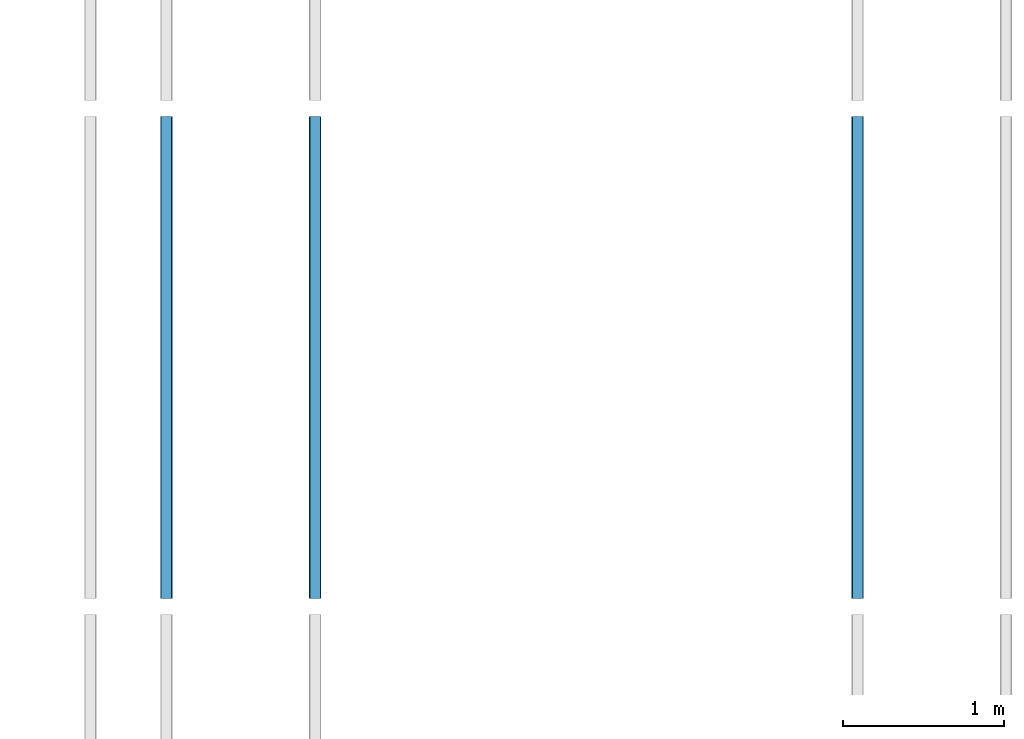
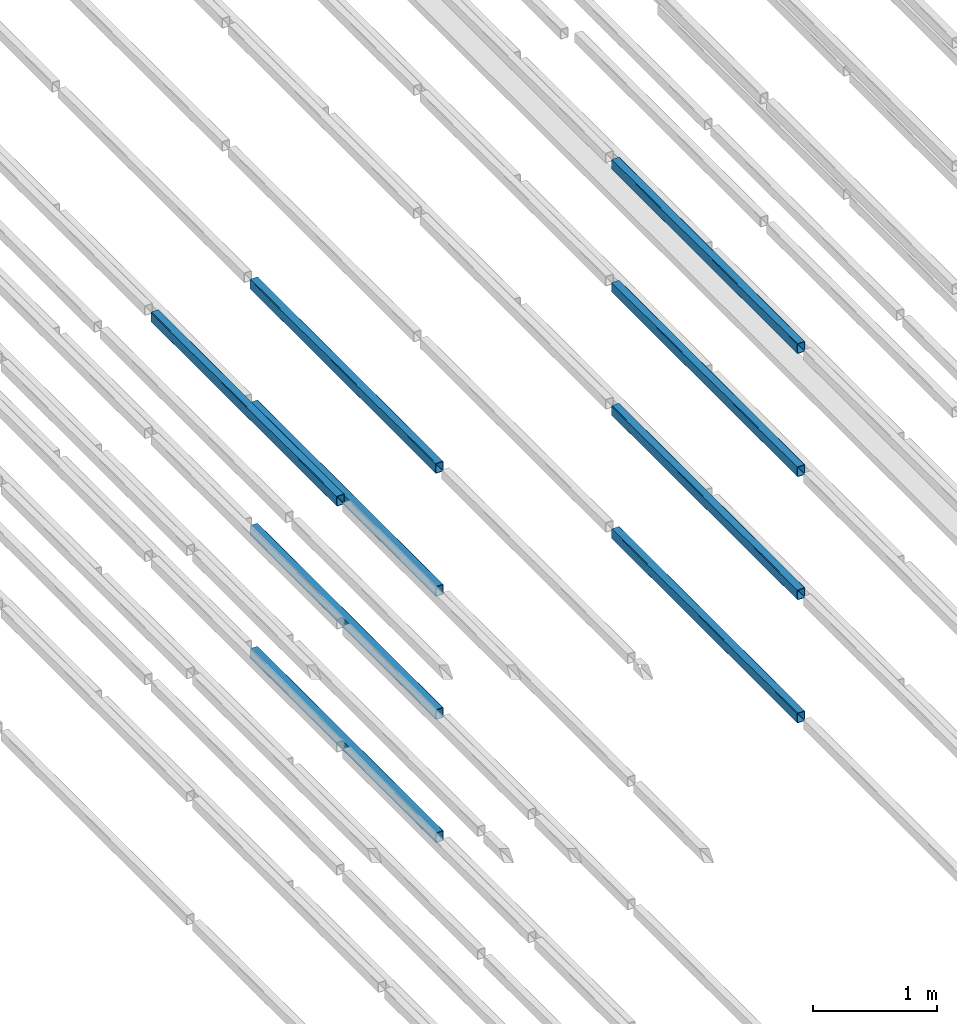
# One storey, part 74 of 290: 9 beams.
"""IFC2X3 building model written with IfcOpenShell, lengths in metres."""

from ifc_helpers import new_model, entity, si_unit, converted_unit, derived_unit, direction, frame, frame_2d, origin, place, context, subcontext, project, spatial, polyline, circle_curve, parameter, trimmed, segment, composite_curve, outline, extrude, material, type_object, element, save


model = new_model("IFC2X3")

# Units and contexts
model_context = context("Model", 3, precision=1e-05, world=origin(), true_north=direction((6.12303176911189e-17, 1.0)))
body_context = subcontext(model_context, "Body", "Model", "MODEL_VIEW")
ifc_project = project(units=[si_unit("LENGTHUNIT", "METRE"), si_unit("AREAUNIT", "SQUARE_METRE"), si_unit("VOLUMEUNIT", "CUBIC_METRE"), converted_unit("PLANEANGLEUNIT", "DEGREE", entity("IfcRatioMeasure", 0.0174532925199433), si_unit("PLANEANGLEUNIT", "RADIAN"), dimensions=[0, 0, 0, 0, 0, 0, 0]), si_unit("MASSUNIT", "GRAM", prefix="KILO"), derived_unit("MASSDENSITYUNIT", [(si_unit("MASSUNIT", "GRAM", prefix="KILO"), 1), (si_unit("LENGTHUNIT", "METRE"), -3)]), derived_unit("MOMENTOFINERTIAUNIT", [(si_unit("LENGTHUNIT", "METRE"), 4)]), si_unit("TIMEUNIT", "SECOND"), si_unit("FREQUENCYUNIT", "HERTZ"), si_unit("THERMODYNAMICTEMPERATUREUNIT", "DEGREE_CELSIUS"), derived_unit("THERMALTRANSMITTANCEUNIT", [(si_unit("MASSUNIT", "GRAM", prefix="KILO"), 1), (si_unit("THERMODYNAMICTEMPERATUREUNIT", "KELVIN"), -1), (si_unit("TIMEUNIT", "SECOND"), -3)]), derived_unit("VOLUMETRICFLOWRATEUNIT", [(si_unit("LENGTHUNIT", "METRE"), 3), (si_unit("TIMEUNIT", "SECOND"), -1)]), si_unit("ELECTRICCURRENTUNIT", "AMPERE"), si_unit("ELECTRICVOLTAGEUNIT", "VOLT"), si_unit("POWERUNIT", "WATT"), si_unit("FORCEUNIT", "NEWTON", prefix="KILO"), si_unit("ILLUMINANCEUNIT", "LUX"), si_unit("LUMINOUSFLUXUNIT", "LUMEN"), si_unit("LUMINOUSINTENSITYUNIT", "CANDELA"), derived_unit("USERDEFINED", [(si_unit("MASSUNIT", "GRAM", prefix="KILO"), -1), (si_unit("LENGTHUNIT", "METRE"), -2), (si_unit("TIMEUNIT", "SECOND"), 3), (si_unit("LUMINOUSFLUXUNIT", "LUMEN"), 1)]), derived_unit("LINEARVELOCITYUNIT", [(si_unit("LENGTHUNIT", "METRE"), 1), (si_unit("TIMEUNIT", "SECOND"), -1)]), si_unit("PRESSUREUNIT", "PASCAL"), derived_unit("USERDEFINED", [(si_unit("LENGTHUNIT", "METRE"), -2), (si_unit("MASSUNIT", "GRAM", prefix="KILO"), 1), (si_unit("TIMEUNIT", "SECOND"), -2)]), derived_unit("LINEARFORCEUNIT", [(si_unit("MASSUNIT", "GRAM", prefix="KILO"), 1), (si_unit("LENGTHUNIT", "METRE"), 1), (si_unit("TIMEUNIT", "SECOND"), -2), (si_unit("LENGTHUNIT", "METRE"), -1)]), derived_unit("PLANARFORCEUNIT", [(si_unit("MASSUNIT", "GRAM", prefix="KILO"), 1), (si_unit("LENGTHUNIT", "METRE"), 1), (si_unit("TIMEUNIT", "SECOND"), -2), (si_unit("LENGTHUNIT", "METRE"), -2)])], contexts=[model_context])

# Site, building, storey
site_placement = place(None, origin())
site = spatial("IfcSite", under=ifc_project, at=site_placement, Name="Default", CompositionType="ELEMENT")
building_placement = place(site_placement, origin())
building = spatial("IfcBuilding", under=site, at=building_placement, CompositionType="ELEMENT")
storey_placement = place(building_placement, frame((0.0, 0.0, 4.0)))
storey = spatial("IfcBuildingStorey", under=building, at=storey_placement, Name="01_OG", CompositionType="ELEMENT", Elevation=4.0)

# Beams
ifc_material = material(Name="Metall - Baustahl S235 blau")
beam_type = type_object("IfcBeamType", Name="RHS Träger (EN 10219-2):RHS 100 x 75 x 5", PredefinedType="NOTDEFINED")
beam_1_placement = place(storey_placement, frame((-183.615111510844, 36.448088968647, 2.445), z_axis=(0.0, 0.0, 1.0), x_axis=(0.0, 1.0, 0.0)))
element("IfcBeam", 1, at=beam_1_placement, inside=storey, type_object=beam_type, material=ifc_material, Name="RHS Träger (EN 10219-2):RHS 100 x 75 x 5", ObjectType="RHS Träger (EN 10219-2):RHS 100 x 75 x 5", context=body_context, shape_type="SweptSolid", body=[
    extrude(outline(composite_curve([segment(trimmed(circle_curve(frame_2d((-0.0274999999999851, -0.0399999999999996), x_axis=(1.0, 0.0)), 0.01), [parameter(180.0)], [parameter(270.0)], True, "PARAMETER"), True, "CONTINUOUS"), segment(polyline([(-0.0274999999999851, -0.0499999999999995), (0.0274999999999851, -0.0499999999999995)]), True, "CONTINUOUS"), segment(trimmed(circle_curve(frame_2d((0.0274999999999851, -0.0399999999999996), x_axis=(1.0, 0.0)), 0.01), [parameter(270.0)], [parameter(5.08888749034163e-14)], True, "PARAMETER"), True, "CONTINUOUS"), segment(polyline([(0.0375000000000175, -0.0399999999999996), (0.0375000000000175, 0.0399999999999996)]), True, "CONTINUOUS"), segment(trimmed(circle_curve(frame_2d((0.0274999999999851, 0.0399999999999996), x_axis=(1.0, 0.0)), 0.01), [parameter(360.0)], [parameter(89.9999999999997)], True, "PARAMETER"), True, "CONTINUOUS"), segment(polyline([(0.0274999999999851, 0.0500000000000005), (-0.0274999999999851, 0.0500000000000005)]), True, "CONTINUOUS"), segment(trimmed(circle_curve(frame_2d((-0.0274999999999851, 0.0399999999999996), x_axis=(1.0, 0.0)), 0.01), [parameter(90.0000000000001)], [parameter(180.0)], True, "PARAMETER"), True, "CONTINUOUS"), segment(polyline([(-0.0374999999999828, 0.0399999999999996), (-0.0374999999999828, -0.0399999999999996)]), True, "CONTINUOUS")], self_intersect=False), holes=[composite_curve([segment(polyline([(0.0274999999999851, -0.0450000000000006), (-0.0274999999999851, -0.0450000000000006)]), True, "CONTINUOUS"), segment(trimmed(circle_curve(frame_2d((-0.0274999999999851, -0.0400000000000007), x_axis=(1.0, 0.0)), 0.005), [parameter(180.0)], [parameter(270.0)], True, "PARAMETER"), False, "CONTINUOUS"), segment(polyline([(-0.0325000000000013, -0.0400000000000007), (-0.0325000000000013, 0.0399999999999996)]), True, "CONTINUOUS"), segment(trimmed(circle_curve(frame_2d((-0.0274999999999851, 0.0399999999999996), x_axis=(1.0, 0.0)), 0.005), [parameter(90.0000000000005)], [parameter(180.0)], True, "PARAMETER"), False, "CONTINUOUS"), segment(polyline([(-0.0274999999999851, 0.0449999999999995), (0.0274999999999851, 0.0449999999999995)]), True, "CONTINUOUS"), segment(trimmed(circle_curve(frame_2d((0.0274999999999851, 0.0399999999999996), x_axis=(1.0, 0.0)), 0.005), [parameter(0.0)], [parameter(90.0000000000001)], True, "PARAMETER"), False, "CONTINUOUS"), segment(polyline([(0.0325000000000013, 0.0399999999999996), (0.0325000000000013, -0.0400000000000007)]), True, "CONTINUOUS"), segment(trimmed(circle_curve(frame_2d((0.0274999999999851, -0.0400000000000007), x_axis=(1.0, 0.0)), 0.005), [parameter(270.0)], [parameter(4.07110999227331e-13)], True, "PARAMETER"), False, "CONTINUOUS")], self_intersect=False)]), frame((9.99999999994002e-05, 0.0375000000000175, -0.0500000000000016), z_axis=(1.0, 0.0, 0.0), x_axis=(0.0, -1.0, 0.0)), (0.0, 0.0, 1.0), 2.9998),
])
beam_2_placement = place(storey_placement, frame((-182.765111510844, 36.448088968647, -1.2), z_axis=(0.0, 0.0, 1.0), x_axis=(0.0, 1.0, 0.0)))
element("IfcBeam", 2, at=beam_2_placement, inside=storey, type_object=beam_type, material=ifc_material, Name="RHS Träger (EN 10219-2):RHS 100 x 75 x 5", ObjectType="RHS Träger (EN 10219-2):RHS 100 x 75 x 5", context=body_context, shape_type="SweptSolid", body=[
    extrude(outline(composite_curve([segment(polyline([(-0.0400000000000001, -0.0374999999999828), (0.0400000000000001, -0.0374999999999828)]), True, "CONTINUOUS"), segment(trimmed(circle_curve(frame_2d((0.0400000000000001, -0.0274999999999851), x_axis=(0.0, 1.0)), 0.01), [parameter(180.0)], [parameter(270.0)], True, "PARAMETER"), True, "CONTINUOUS"), segment(polyline([(0.05, -0.0274999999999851), (0.05, 0.0274999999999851)]), True, "CONTINUOUS"), segment(trimmed(circle_curve(frame_2d((0.0400000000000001, 0.0274999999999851), x_axis=(0.0, 1.0)), 0.01), [parameter(270.0)], [parameter(4.07110999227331e-13)], True, "PARAMETER"), True, "CONTINUOUS"), segment(polyline([(0.0400000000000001, 0.0375000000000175), (-0.0400000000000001, 0.0375000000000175)]), True, "CONTINUOUS"), segment(trimmed(circle_curve(frame_2d((-0.0400000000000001, 0.0274999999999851), x_axis=(0.0, 1.0)), 0.01), [parameter(360.0)], [parameter(90.0000000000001)], True, "PARAMETER"), True, "CONTINUOUS"), segment(polyline([(-0.05, 0.0274999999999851), (-0.05, -0.0274999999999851)]), True, "CONTINUOUS"), segment(trimmed(circle_curve(frame_2d((-0.0400000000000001, -0.0274999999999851), x_axis=(0.0, 1.0)), 0.01), [parameter(90.0000000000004)], [parameter(180.0)], True, "PARAMETER"), True, "CONTINUOUS")], self_intersect=False), holes=[composite_curve([segment(trimmed(circle_curve(frame_2d((-0.0400000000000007, 0.0274999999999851), x_axis=(0.0, 1.0)), 0.005), [parameter(360.0)], [parameter(89.9999999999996)], True, "PARAMETER"), False, "CONTINUOUS"), segment(polyline([(-0.0400000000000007, 0.0325000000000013), (0.039999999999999, 0.0325000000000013)]), True, "CONTINUOUS"), segment(trimmed(circle_curve(frame_2d((0.039999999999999, 0.0274999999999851), x_axis=(0.0, 1.0)), 0.005), [parameter(270.0)], [parameter(0.0)], True, "PARAMETER"), False, "CONTINUOUS"), segment(polyline([(0.044999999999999, 0.0274999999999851), (0.044999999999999, -0.0274999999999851)]), True, "CONTINUOUS"), segment(trimmed(circle_curve(frame_2d((0.039999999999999, -0.0274999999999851), x_axis=(0.0, 1.0)), 0.005), [parameter(180.0)], [parameter(269.999999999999)], True, "PARAMETER"), False, "CONTINUOUS"), segment(polyline([(0.039999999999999, -0.0325000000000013), (-0.0400000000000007, -0.0325000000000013)]), True, "CONTINUOUS"), segment(trimmed(circle_curve(frame_2d((-0.0400000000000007, -0.0274999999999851), x_axis=(0.0, 1.0)), 0.005), [parameter(90.0000000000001)], [parameter(180.0)], True, "PARAMETER"), False, "CONTINUOUS"), segment(polyline([(-0.0450000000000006, -0.0274999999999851), (-0.0450000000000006, 0.0274999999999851)]), True, "CONTINUOUS")], self_intersect=False)]), frame((0.000100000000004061, -0.0375000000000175, -0.0500000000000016), z_axis=(1.0, 0.0, 0.0), x_axis=(0.0, 0.0, -1.0)), (0.0, 0.0, 1.0), 2.9998),
])
beam_3_placement = place(storey_placement, frame((-182.765111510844, 36.448088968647, 0.0150000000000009), z_axis=(0.0, 0.0, 1.0), x_axis=(0.0, 1.0, 0.0)))
element("IfcBeam", 3, at=beam_3_placement, inside=storey, type_object=beam_type, material=ifc_material, Name="RHS Träger (EN 10219-2):RHS 100 x 75 x 5", ObjectType="RHS Träger (EN 10219-2):RHS 100 x 75 x 5", context=body_context, shape_type="SweptSolid", body=[
    extrude(outline(composite_curve([segment(polyline([(-0.0400000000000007, -0.0374999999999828), (0.0399999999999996, -0.0374999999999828)]), True, "CONTINUOUS"), segment(trimmed(circle_curve(frame_2d((0.0399999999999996, -0.0274999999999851), x_axis=(0.0, 1.0)), 0.01), [parameter(180.0)], [parameter(270.0)], True, "PARAMETER"), True, "CONTINUOUS"), segment(polyline([(0.0499999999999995, -0.0274999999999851), (0.0499999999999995, 0.0274999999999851)]), True, "CONTINUOUS"), segment(trimmed(circle_curve(frame_2d((0.0399999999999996, 0.0274999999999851), x_axis=(0.0, 1.0)), 0.01), [parameter(270.0)], [parameter(4.07110999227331e-13)], True, "PARAMETER"), True, "CONTINUOUS"), segment(polyline([(0.0399999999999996, 0.0375000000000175), (-0.0400000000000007, 0.0375000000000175)]), True, "CONTINUOUS"), segment(trimmed(circle_curve(frame_2d((-0.0400000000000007, 0.0274999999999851), x_axis=(0.0, 1.0)), 0.01), [parameter(360.0)], [parameter(90.0000000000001)], True, "PARAMETER"), True, "CONTINUOUS"), segment(polyline([(-0.0500000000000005, 0.0274999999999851), (-0.0500000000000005, -0.0274999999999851)]), True, "CONTINUOUS"), segment(trimmed(circle_curve(frame_2d((-0.0400000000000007, -0.0274999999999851), x_axis=(0.0, 1.0)), 0.01), [parameter(90.0000000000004)], [parameter(180.0)], True, "PARAMETER"), True, "CONTINUOUS")], self_intersect=False), holes=[composite_curve([segment(trimmed(circle_curve(frame_2d((-0.0400000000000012, 0.0274999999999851), x_axis=(0.0, 1.0)), 0.005), [parameter(360.0)], [parameter(89.9999999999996)], True, "PARAMETER"), False, "CONTINUOUS"), segment(polyline([(-0.0400000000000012, 0.0325000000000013), (0.0399999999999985, 0.0325000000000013)]), True, "CONTINUOUS"), segment(trimmed(circle_curve(frame_2d((0.0399999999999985, 0.0274999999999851), x_axis=(0.0, 1.0)), 0.005), [parameter(270.0)], [parameter(0.0)], True, "PARAMETER"), False, "CONTINUOUS"), segment(polyline([(0.0449999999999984, 0.0274999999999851), (0.0449999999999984, -0.0274999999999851)]), True, "CONTINUOUS"), segment(trimmed(circle_curve(frame_2d((0.0399999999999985, -0.0274999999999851), x_axis=(0.0, 1.0)), 0.005), [parameter(180.0)], [parameter(269.999999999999)], True, "PARAMETER"), False, "CONTINUOUS"), segment(polyline([(0.0399999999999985, -0.0325000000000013), (-0.0400000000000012, -0.0325000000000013)]), True, "CONTINUOUS"), segment(trimmed(circle_curve(frame_2d((-0.0400000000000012, -0.0274999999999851), x_axis=(0.0, 1.0)), 0.005), [parameter(90.0000000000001)], [parameter(180.0)], True, "PARAMETER"), False, "CONTINUOUS"), segment(polyline([(-0.0450000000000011, -0.0274999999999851), (-0.0450000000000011, 0.0274999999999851)]), True, "CONTINUOUS")], self_intersect=False)]), frame((0.000100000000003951, -0.0375000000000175, -0.0500000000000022), z_axis=(1.0, 0.0, 0.0), x_axis=(0.0, 0.0, -1.0)), (0.0, 0.0, 1.0), 2.9998),
])
beam_4_placement = place(storey_placement, frame((-182.765111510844, 36.448088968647, 1.23), z_axis=(0.0, 0.0, 1.0), x_axis=(0.0, 1.0, 0.0)))
element("IfcBeam", 4, at=beam_4_placement, inside=storey, type_object=beam_type, material=ifc_material, Name="RHS Träger (EN 10219-2):RHS 100 x 75 x 5", ObjectType="RHS Träger (EN 10219-2):RHS 100 x 75 x 5", context=body_context, shape_type="SweptSolid", body=[
    extrude(outline(composite_curve([segment(polyline([(-0.0399999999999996, -0.0374999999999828), (0.0399999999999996, -0.0374999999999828)]), True, "CONTINUOUS"), segment(trimmed(circle_curve(frame_2d((0.0399999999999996, -0.0274999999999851), x_axis=(0.0, 1.0)), 0.01), [parameter(180.0)], [parameter(270.0)], True, "PARAMETER"), True, "CONTINUOUS"), segment(polyline([(0.0500000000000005, -0.0274999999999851), (0.0500000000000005, 0.0274999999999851)]), True, "CONTINUOUS"), segment(trimmed(circle_curve(frame_2d((0.0399999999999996, 0.0274999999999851), x_axis=(0.0, 1.0)), 0.01), [parameter(270.0)], [parameter(4.07110999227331e-13)], True, "PARAMETER"), True, "CONTINUOUS"), segment(polyline([(0.0399999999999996, 0.0375000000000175), (-0.0399999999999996, 0.0375000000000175)]), True, "CONTINUOUS"), segment(trimmed(circle_curve(frame_2d((-0.0399999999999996, 0.0274999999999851), x_axis=(0.0, 1.0)), 0.01), [parameter(360.0)], [parameter(90.0000000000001)], True, "PARAMETER"), True, "CONTINUOUS"), segment(polyline([(-0.0499999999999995, 0.0274999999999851), (-0.0499999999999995, -0.0274999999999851)]), True, "CONTINUOUS"), segment(trimmed(circle_curve(frame_2d((-0.0399999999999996, -0.0274999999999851), x_axis=(0.0, 1.0)), 0.01), [parameter(90.0000000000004)], [parameter(180.0)], True, "PARAMETER"), True, "CONTINUOUS")], self_intersect=False), holes=[composite_curve([segment(trimmed(circle_curve(frame_2d((-0.0400000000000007, 0.0274999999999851), x_axis=(0.0, 1.0)), 0.005), [parameter(360.0)], [parameter(89.9999999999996)], True, "PARAMETER"), False, "CONTINUOUS"), segment(polyline([(-0.0400000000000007, 0.0325000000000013), (0.0399999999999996, 0.0325000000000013)]), True, "CONTINUOUS"), segment(trimmed(circle_curve(frame_2d((0.0399999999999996, 0.0274999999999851), x_axis=(0.0, 1.0)), 0.005), [parameter(270.0)], [parameter(0.0)], True, "PARAMETER"), False, "CONTINUOUS"), segment(polyline([(0.0449999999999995, 0.0274999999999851), (0.0449999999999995, -0.0274999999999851)]), True, "CONTINUOUS"), segment(trimmed(circle_curve(frame_2d((0.0399999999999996, -0.0274999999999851), x_axis=(0.0, 1.0)), 0.005), [parameter(180.0)], [parameter(269.999999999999)], True, "PARAMETER"), False, "CONTINUOUS"), segment(polyline([(0.0399999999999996, -0.0325000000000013), (-0.0400000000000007, -0.0325000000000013)]), True, "CONTINUOUS"), segment(trimmed(circle_curve(frame_2d((-0.0400000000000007, -0.0274999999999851), x_axis=(0.0, 1.0)), 0.005), [parameter(90.0000000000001)], [parameter(180.0)], True, "PARAMETER"), False, "CONTINUOUS"), segment(polyline([(-0.0450000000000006, -0.0274999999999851), (-0.0450000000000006, 0.0274999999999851)]), True, "CONTINUOUS")], self_intersect=False)]), frame((0.000100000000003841, -0.0375000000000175, -0.0500000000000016), z_axis=(1.0, 0.0, 0.0), x_axis=(0.0, 0.0, -1.0)), (0.0, 0.0, 1.0), 2.9998),
])
beam_5_placement = place(storey_placement, frame((-182.765111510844, 36.448088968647, 2.445), z_axis=(0.0, 0.0, 1.0), x_axis=(0.0, 1.0, 0.0)))
element("IfcBeam", 5, at=beam_5_placement, inside=storey, type_object=beam_type, material=ifc_material, Name="RHS Träger (EN 10219-2):RHS 100 x 75 x 5", ObjectType="RHS Träger (EN 10219-2):RHS 100 x 75 x 5", context=body_context, shape_type="SweptSolid", body=[
    extrude(outline(composite_curve([segment(polyline([(-0.0399999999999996, -0.0374999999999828), (0.0399999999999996, -0.0374999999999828)]), True, "CONTINUOUS"), segment(trimmed(circle_curve(frame_2d((0.0399999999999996, -0.0274999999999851), x_axis=(0.0, 1.0)), 0.01), [parameter(180.0)], [parameter(270.0)], True, "PARAMETER"), True, "CONTINUOUS"), segment(polyline([(0.0500000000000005, -0.0274999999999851), (0.0500000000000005, 0.0274999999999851)]), True, "CONTINUOUS"), segment(trimmed(circle_curve(frame_2d((0.0399999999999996, 0.0274999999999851), x_axis=(0.0, 1.0)), 0.01), [parameter(270.0)], [parameter(4.07110999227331e-13)], True, "PARAMETER"), True, "CONTINUOUS"), segment(polyline([(0.0399999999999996, 0.0375000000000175), (-0.0399999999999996, 0.0375000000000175)]), True, "CONTINUOUS"), segment(trimmed(circle_curve(frame_2d((-0.0399999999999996, 0.0274999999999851), x_axis=(0.0, 1.0)), 0.01), [parameter(360.0)], [parameter(90.0000000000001)], True, "PARAMETER"), True, "CONTINUOUS"), segment(polyline([(-0.0499999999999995, 0.0274999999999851), (-0.0499999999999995, -0.0274999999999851)]), True, "CONTINUOUS"), segment(trimmed(circle_curve(frame_2d((-0.0399999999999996, -0.0274999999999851), x_axis=(0.0, 1.0)), 0.01), [parameter(90.0000000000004)], [parameter(180.0)], True, "PARAMETER"), True, "CONTINUOUS")], self_intersect=False), holes=[composite_curve([segment(trimmed(circle_curve(frame_2d((-0.0400000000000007, 0.0274999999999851), x_axis=(0.0, 1.0)), 0.005), [parameter(360.0)], [parameter(89.9999999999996)], True, "PARAMETER"), False, "CONTINUOUS"), segment(polyline([(-0.0400000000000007, 0.0325000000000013), (0.0399999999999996, 0.0325000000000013)]), True, "CONTINUOUS"), segment(trimmed(circle_curve(frame_2d((0.0399999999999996, 0.0274999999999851), x_axis=(0.0, 1.0)), 0.005), [parameter(270.0)], [parameter(0.0)], True, "PARAMETER"), False, "CONTINUOUS"), segment(polyline([(0.0449999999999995, 0.0274999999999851), (0.0449999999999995, -0.0274999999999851)]), True, "CONTINUOUS"), segment(trimmed(circle_curve(frame_2d((0.0399999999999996, -0.0274999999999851), x_axis=(0.0, 1.0)), 0.005), [parameter(180.0)], [parameter(269.999999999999)], True, "PARAMETER"), False, "CONTINUOUS"), segment(polyline([(0.0399999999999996, -0.0325000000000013), (-0.0400000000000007, -0.0325000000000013)]), True, "CONTINUOUS"), segment(trimmed(circle_curve(frame_2d((-0.0400000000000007, -0.0274999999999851), x_axis=(0.0, 1.0)), 0.005), [parameter(90.0000000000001)], [parameter(180.0)], True, "PARAMETER"), False, "CONTINUOUS"), segment(polyline([(-0.0450000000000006, -0.0274999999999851), (-0.0450000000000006, 0.0274999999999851)]), True, "CONTINUOUS")], self_intersect=False)]), frame((0.000100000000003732, -0.0375000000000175, -0.0500000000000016), z_axis=(1.0, 0.0, 0.0), x_axis=(0.0, 0.0, -1.0)), (0.0, 0.0, 1.0), 2.9998),
])
beam_6_placement = place(storey_placement, frame((-179.315111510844, 36.448088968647, -1.2), z_axis=(0.0, 0.0, 1.0), x_axis=(0.0, 1.0, 0.0)))
element("IfcBeam", 6, at=beam_6_placement, inside=storey, type_object=beam_type, material=ifc_material, Name="RHS Träger (EN 10219-2):RHS 100 x 75 x 5", ObjectType="RHS Träger (EN 10219-2):RHS 100 x 75 x 5", context=body_context, shape_type="SweptSolid", body=[
    extrude(outline(composite_curve([segment(trimmed(circle_curve(frame_2d((-0.0274999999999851, -0.0400000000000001), x_axis=(1.0, 0.0)), 0.01), [parameter(180.0)], [parameter(270.0)], True, "PARAMETER"), True, "CONTINUOUS"), segment(polyline([(-0.0274999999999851, -0.05), (0.0274999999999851, -0.05)]), True, "CONTINUOUS"), segment(trimmed(circle_curve(frame_2d((0.0274999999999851, -0.0400000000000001), x_axis=(1.0, 0.0)), 0.01), [parameter(270.0)], [parameter(5.08888749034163e-14)], True, "PARAMETER"), True, "CONTINUOUS"), segment(polyline([(0.0375000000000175, -0.0400000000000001), (0.0375000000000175, 0.0400000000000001)]), True, "CONTINUOUS"), segment(trimmed(circle_curve(frame_2d((0.0274999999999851, 0.0400000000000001), x_axis=(1.0, 0.0)), 0.01), [parameter(360.0)], [parameter(89.9999999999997)], True, "PARAMETER"), True, "CONTINUOUS"), segment(polyline([(0.0274999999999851, 0.05), (-0.0274999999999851, 0.05)]), True, "CONTINUOUS"), segment(trimmed(circle_curve(frame_2d((-0.0274999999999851, 0.0400000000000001), x_axis=(1.0, 0.0)), 0.01), [parameter(90.0000000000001)], [parameter(180.0)], True, "PARAMETER"), True, "CONTINUOUS"), segment(polyline([(-0.0374999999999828, 0.0400000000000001), (-0.0374999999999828, -0.0400000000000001)]), True, "CONTINUOUS")], self_intersect=False), holes=[composite_curve([segment(polyline([(0.0274999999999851, -0.0450000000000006), (-0.0274999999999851, -0.0450000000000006)]), True, "CONTINUOUS"), segment(trimmed(circle_curve(frame_2d((-0.0274999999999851, -0.0400000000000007), x_axis=(1.0, 0.0)), 0.005), [parameter(180.0)], [parameter(270.0)], True, "PARAMETER"), False, "CONTINUOUS"), segment(polyline([(-0.0325000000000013, -0.0400000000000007), (-0.0325000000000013, 0.039999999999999)]), True, "CONTINUOUS"), segment(trimmed(circle_curve(frame_2d((-0.0274999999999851, 0.039999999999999), x_axis=(1.0, 0.0)), 0.005), [parameter(90.0000000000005)], [parameter(180.0)], True, "PARAMETER"), False, "CONTINUOUS"), segment(polyline([(-0.0274999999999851, 0.044999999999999), (0.0274999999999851, 0.044999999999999)]), True, "CONTINUOUS"), segment(trimmed(circle_curve(frame_2d((0.0274999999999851, 0.039999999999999), x_axis=(1.0, 0.0)), 0.005), [parameter(0.0)], [parameter(90.0000000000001)], True, "PARAMETER"), False, "CONTINUOUS"), segment(polyline([(0.0325000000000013, 0.039999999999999), (0.0325000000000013, -0.0400000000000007)]), True, "CONTINUOUS"), segment(trimmed(circle_curve(frame_2d((0.0274999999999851, -0.0400000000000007), x_axis=(1.0, 0.0)), 0.005), [parameter(270.0)], [parameter(4.07110999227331e-13)], True, "PARAMETER"), False, "CONTINUOUS")], self_intersect=False)]), frame((9.99999999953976e-05, 0.0375000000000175, -0.0500000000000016), z_axis=(1.0, 0.0, 0.0), x_axis=(0.0, -1.0, 0.0)), (0.0, 0.0, 1.0), 2.9998),
])
beam_7_placement = place(storey_placement, frame((-179.315111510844, 36.448088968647, 0.0150000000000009), z_axis=(0.0, 0.0, 1.0), x_axis=(0.0, 1.0, 0.0)))
element("IfcBeam", 7, at=beam_7_placement, inside=storey, type_object=beam_type, material=ifc_material, Name="RHS Träger (EN 10219-2):RHS 100 x 75 x 5", ObjectType="RHS Träger (EN 10219-2):RHS 100 x 75 x 5", context=body_context, shape_type="SweptSolid", body=[
    extrude(outline(composite_curve([segment(trimmed(circle_curve(frame_2d((-0.0274999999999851, -0.0400000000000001), x_axis=(1.0, 0.0)), 0.01), [parameter(180.0)], [parameter(270.0)], True, "PARAMETER"), True, "CONTINUOUS"), segment(polyline([(-0.0274999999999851, -0.05), (0.0274999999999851, -0.05)]), True, "CONTINUOUS"), segment(trimmed(circle_curve(frame_2d((0.0274999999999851, -0.0400000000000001), x_axis=(1.0, 0.0)), 0.01), [parameter(270.0)], [parameter(5.08888749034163e-14)], True, "PARAMETER"), True, "CONTINUOUS"), segment(polyline([(0.0375000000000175, -0.0400000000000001), (0.0375000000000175, 0.0400000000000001)]), True, "CONTINUOUS"), segment(trimmed(circle_curve(frame_2d((0.0274999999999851, 0.0400000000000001), x_axis=(1.0, 0.0)), 0.01), [parameter(360.0)], [parameter(89.9999999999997)], True, "PARAMETER"), True, "CONTINUOUS"), segment(polyline([(0.0274999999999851, 0.05), (-0.0274999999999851, 0.05)]), True, "CONTINUOUS"), segment(trimmed(circle_curve(frame_2d((-0.0274999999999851, 0.0400000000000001), x_axis=(1.0, 0.0)), 0.01), [parameter(90.0000000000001)], [parameter(180.0)], True, "PARAMETER"), True, "CONTINUOUS"), segment(polyline([(-0.0374999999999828, 0.0400000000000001), (-0.0374999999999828, -0.0400000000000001)]), True, "CONTINUOUS")], self_intersect=False), holes=[composite_curve([segment(polyline([(0.0274999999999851, -0.0450000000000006), (-0.0274999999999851, -0.0450000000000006)]), True, "CONTINUOUS"), segment(trimmed(circle_curve(frame_2d((-0.0274999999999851, -0.0400000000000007), x_axis=(1.0, 0.0)), 0.005), [parameter(180.0)], [parameter(270.0)], True, "PARAMETER"), False, "CONTINUOUS"), segment(polyline([(-0.0325000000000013, -0.0400000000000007), (-0.0325000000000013, 0.039999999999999)]), True, "CONTINUOUS"), segment(trimmed(circle_curve(frame_2d((-0.0274999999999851, 0.039999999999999), x_axis=(1.0, 0.0)), 0.005), [parameter(90.0000000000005)], [parameter(180.0)], True, "PARAMETER"), False, "CONTINUOUS"), segment(polyline([(-0.0274999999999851, 0.044999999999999), (0.0274999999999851, 0.044999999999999)]), True, "CONTINUOUS"), segment(trimmed(circle_curve(frame_2d((0.0274999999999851, 0.039999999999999), x_axis=(1.0, 0.0)), 0.005), [parameter(0.0)], [parameter(90.0000000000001)], True, "PARAMETER"), False, "CONTINUOUS"), segment(polyline([(0.0325000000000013, 0.039999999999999), (0.0325000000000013, -0.0400000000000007)]), True, "CONTINUOUS"), segment(trimmed(circle_curve(frame_2d((0.0274999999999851, -0.0400000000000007), x_axis=(1.0, 0.0)), 0.005), [parameter(270.0)], [parameter(4.07110999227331e-13)], True, "PARAMETER"), False, "CONTINUOUS")], self_intersect=False)]), frame((9.9999999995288e-05, 0.0375000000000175, -0.0500000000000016), z_axis=(1.0, 0.0, 0.0), x_axis=(0.0, -1.0, 0.0)), (0.0, 0.0, 1.0), 2.9998),
])
beam_8_placement = place(storey_placement, frame((-179.315111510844, 36.448088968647, 1.23), z_axis=(0.0, 0.0, 1.0), x_axis=(0.0, 1.0, 0.0)))
element("IfcBeam", 8, at=beam_8_placement, inside=storey, type_object=beam_type, material=ifc_material, Name="RHS Träger (EN 10219-2):RHS 100 x 75 x 5", ObjectType="RHS Träger (EN 10219-2):RHS 100 x 75 x 5", context=body_context, shape_type="SweptSolid", body=[
    extrude(outline(composite_curve([segment(trimmed(circle_curve(frame_2d((-0.0274999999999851, -0.0399999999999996), x_axis=(1.0, 0.0)), 0.01), [parameter(180.0)], [parameter(270.0)], True, "PARAMETER"), True, "CONTINUOUS"), segment(polyline([(-0.0274999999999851, -0.0499999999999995), (0.0274999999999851, -0.0499999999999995)]), True, "CONTINUOUS"), segment(trimmed(circle_curve(frame_2d((0.0274999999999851, -0.0399999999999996), x_axis=(1.0, 0.0)), 0.01), [parameter(270.0)], [parameter(5.08888749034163e-14)], True, "PARAMETER"), True, "CONTINUOUS"), segment(polyline([(0.0375000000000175, -0.0399999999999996), (0.0375000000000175, 0.0399999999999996)]), True, "CONTINUOUS"), segment(trimmed(circle_curve(frame_2d((0.0274999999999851, 0.0399999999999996), x_axis=(1.0, 0.0)), 0.01), [parameter(360.0)], [parameter(89.9999999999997)], True, "PARAMETER"), True, "CONTINUOUS"), segment(polyline([(0.0274999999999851, 0.0500000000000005), (-0.0274999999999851, 0.0500000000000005)]), True, "CONTINUOUS"), segment(trimmed(circle_curve(frame_2d((-0.0274999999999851, 0.0399999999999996), x_axis=(1.0, 0.0)), 0.01), [parameter(90.0000000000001)], [parameter(180.0)], True, "PARAMETER"), True, "CONTINUOUS"), segment(polyline([(-0.0374999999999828, 0.0399999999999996), (-0.0374999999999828, -0.0399999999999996)]), True, "CONTINUOUS")], self_intersect=False), holes=[composite_curve([segment(polyline([(0.0274999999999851, -0.0450000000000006), (-0.0274999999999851, -0.0450000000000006)]), True, "CONTINUOUS"), segment(trimmed(circle_curve(frame_2d((-0.0274999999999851, -0.0400000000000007), x_axis=(1.0, 0.0)), 0.005), [parameter(180.0)], [parameter(270.0)], True, "PARAMETER"), False, "CONTINUOUS"), segment(polyline([(-0.0325000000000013, -0.0400000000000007), (-0.0325000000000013, 0.0399999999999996)]), True, "CONTINUOUS"), segment(trimmed(circle_curve(frame_2d((-0.0274999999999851, 0.0399999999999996), x_axis=(1.0, 0.0)), 0.005), [parameter(90.0000000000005)], [parameter(180.0)], True, "PARAMETER"), False, "CONTINUOUS"), segment(polyline([(-0.0274999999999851, 0.0449999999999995), (0.0274999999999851, 0.0449999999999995)]), True, "CONTINUOUS"), segment(trimmed(circle_curve(frame_2d((0.0274999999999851, 0.0399999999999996), x_axis=(1.0, 0.0)), 0.005), [parameter(0.0)], [parameter(90.0000000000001)], True, "PARAMETER"), False, "CONTINUOUS"), segment(polyline([(0.0325000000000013, 0.0399999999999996), (0.0325000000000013, -0.0400000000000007)]), True, "CONTINUOUS"), segment(trimmed(circle_curve(frame_2d((0.0274999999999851, -0.0400000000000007), x_axis=(1.0, 0.0)), 0.005), [parameter(270.0)], [parameter(4.07110999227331e-13)], True, "PARAMETER"), False, "CONTINUOUS")], self_intersect=False)]), frame((9.99999999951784e-05, 0.0375000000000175, -0.0500000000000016), z_axis=(1.0, 0.0, 0.0), x_axis=(0.0, -1.0, 0.0)), (0.0, 0.0, 1.0), 2.9998),
])
beam_9_placement = place(storey_placement, frame((-179.315111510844, 36.448088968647, 2.445), z_axis=(0.0, 0.0, 1.0), x_axis=(0.0, 1.0, 0.0)))
element("IfcBeam", 9, at=beam_9_placement, inside=storey, type_object=beam_type, material=ifc_material, Name="RHS Träger (EN 10219-2):RHS 100 x 75 x 5", ObjectType="RHS Träger (EN 10219-2):RHS 100 x 75 x 5", context=body_context, shape_type="SweptSolid", body=[
    extrude(outline(composite_curve([segment(trimmed(circle_curve(frame_2d((-0.0274999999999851, -0.0399999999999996), x_axis=(1.0, 0.0)), 0.01), [parameter(180.0)], [parameter(270.0)], True, "PARAMETER"), True, "CONTINUOUS"), segment(polyline([(-0.0274999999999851, -0.0499999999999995), (0.0274999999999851, -0.0499999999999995)]), True, "CONTINUOUS"), segment(trimmed(circle_curve(frame_2d((0.0274999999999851, -0.0399999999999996), x_axis=(1.0, 0.0)), 0.01), [parameter(270.0)], [parameter(5.08888749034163e-14)], True, "PARAMETER"), True, "CONTINUOUS"), segment(polyline([(0.0375000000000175, -0.0399999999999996), (0.0375000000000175, 0.0399999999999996)]), True, "CONTINUOUS"), segment(trimmed(circle_curve(frame_2d((0.0274999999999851, 0.0399999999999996), x_axis=(1.0, 0.0)), 0.01), [parameter(360.0)], [parameter(89.9999999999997)], True, "PARAMETER"), True, "CONTINUOUS"), segment(polyline([(0.0274999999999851, 0.0500000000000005), (-0.0274999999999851, 0.0500000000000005)]), True, "CONTINUOUS"), segment(trimmed(circle_curve(frame_2d((-0.0274999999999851, 0.0399999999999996), x_axis=(1.0, 0.0)), 0.01), [parameter(90.0000000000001)], [parameter(180.0)], True, "PARAMETER"), True, "CONTINUOUS"), segment(polyline([(-0.0374999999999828, 0.0399999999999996), (-0.0374999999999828, -0.0399999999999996)]), True, "CONTINUOUS")], self_intersect=False), holes=[composite_curve([segment(polyline([(0.0274999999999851, -0.0450000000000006), (-0.0274999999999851, -0.0450000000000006)]), True, "CONTINUOUS"), segment(trimmed(circle_curve(frame_2d((-0.0274999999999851, -0.0400000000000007), x_axis=(1.0, 0.0)), 0.005), [parameter(180.0)], [parameter(270.0)], True, "PARAMETER"), False, "CONTINUOUS"), segment(polyline([(-0.0325000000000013, -0.0400000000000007), (-0.0325000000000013, 0.0399999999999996)]), True, "CONTINUOUS"), segment(trimmed(circle_curve(frame_2d((-0.0274999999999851, 0.0399999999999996), x_axis=(1.0, 0.0)), 0.005), [parameter(90.0000000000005)], [parameter(180.0)], True, "PARAMETER"), False, "CONTINUOUS"), segment(polyline([(-0.0274999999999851, 0.0449999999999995), (0.0274999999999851, 0.0449999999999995)]), True, "CONTINUOUS"), segment(trimmed(circle_curve(frame_2d((0.0274999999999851, 0.0399999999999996), x_axis=(1.0, 0.0)), 0.005), [parameter(0.0)], [parameter(90.0000000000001)], True, "PARAMETER"), False, "CONTINUOUS"), segment(polyline([(0.0325000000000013, 0.0399999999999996), (0.0325000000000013, -0.0400000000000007)]), True, "CONTINUOUS"), segment(trimmed(circle_curve(frame_2d((0.0274999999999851, -0.0400000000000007), x_axis=(1.0, 0.0)), 0.005), [parameter(270.0)], [parameter(4.07110999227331e-13)], True, "PARAMETER"), False, "CONTINUOUS")], self_intersect=False)]), frame((9.99999999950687e-05, 0.0375000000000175, -0.0500000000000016), z_axis=(1.0, 0.0, 0.0), x_axis=(0.0, -1.0, 0.0)), (0.0, 0.0, 1.0), 2.9998),
])

save(model, "model.ifc")
